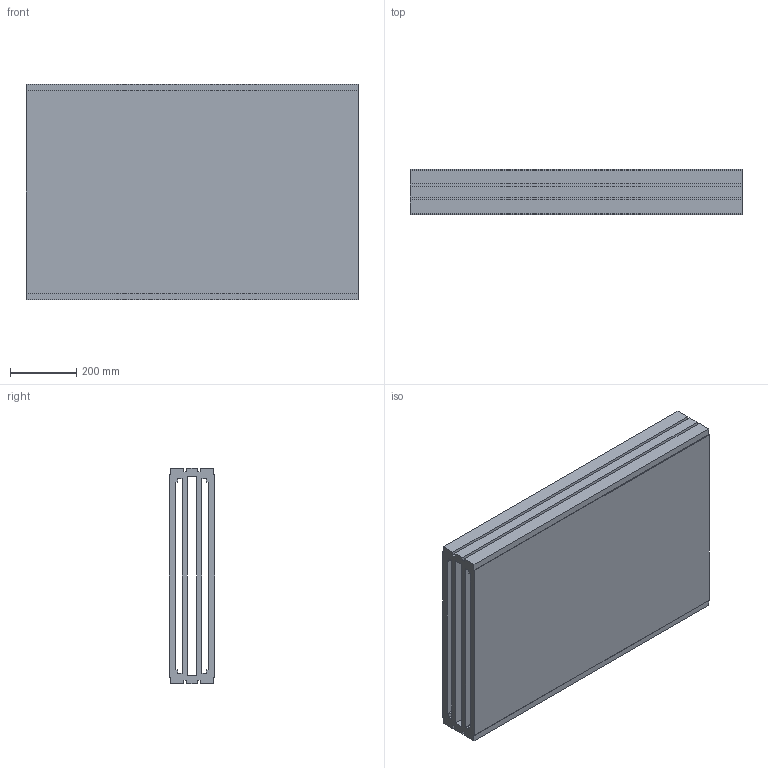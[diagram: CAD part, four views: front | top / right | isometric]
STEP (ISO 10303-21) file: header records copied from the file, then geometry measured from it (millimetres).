
FILE_DESCRIPTION (( 'STEP AP214' ), '1' );
FILE_NAME ('FS-650-MTC-150 02.150L01.650.N Baansectie recht 1000mm.STEP', '2017-12-21T10:09:53', ( '' ), ( '' ), 'SwSTEP 2.0', 'SolidWorks 2017', '' );
FILE_SCHEMA (( 'AUTOMOTIVE_DESIGN' ));
Length unit declared in the file: millimetre
Products named in the file (1): FS-650-MTC-150 02.150L01.650.N Baansectie recht 1000mm
Bounding box: 1000 x 136 x 650.5 mm (x, y, z)
Volume: 49135020 mm3; surface area: 5430270 mm2
Topology: 1 solids, 1 shells, 50 faces, 144 edges, 96 vertices
Faces by surface type: plane 50
Entity records: 1654 total; most frequent: CARTESIAN_POINT 291, ORIENTED_EDGE 288, DIRECTION 246, VECTOR 144, LINE 144, EDGE_CURVE 144, VERTEX_POINT 96, EDGE_LOOP 56
